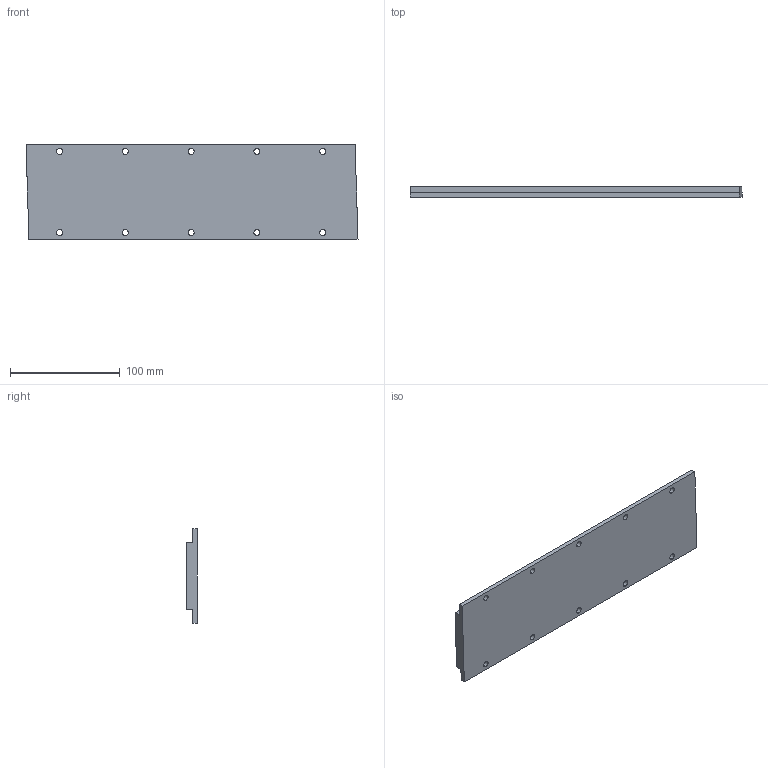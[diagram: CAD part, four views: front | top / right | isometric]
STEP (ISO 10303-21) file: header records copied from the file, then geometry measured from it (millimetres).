
FILE_DESCRIPTION (( 'STEP AP214' ), '1' );
FILE_NAME ('隅赽MK2-300.STEP', '2025-09-05T08:58:22', ( '' ), ( '' ), 'SwSTEP 2.0', 'SolidWorks 2016', '' );
FILE_SCHEMA (( 'AUTOMOTIVE_DESIGN' ));
Length unit declared in the file: millimetre
Products named in the file (1): 隅赽MK2-300
Bounding box: 302.7 x 9.6 x 86 mm (x, y, z)
Volume: 205731.4 mm3; surface area: 58969 mm2
Topology: 1 solids, 1 shells, 60 faces, 168 edges, 112 vertices
Faces by surface type: plane 28, cylinder 20, bspline 12
Entity records: 2686 total; most frequent: CARTESIAN_POINT 1105, ORIENTED_EDGE 336, DIRECTION 282, EDGE_CURVE 168, VERTEX_POINT 112, VECTOR 104, LINE 104, AXIS2_PLACEMENT_3D 89
